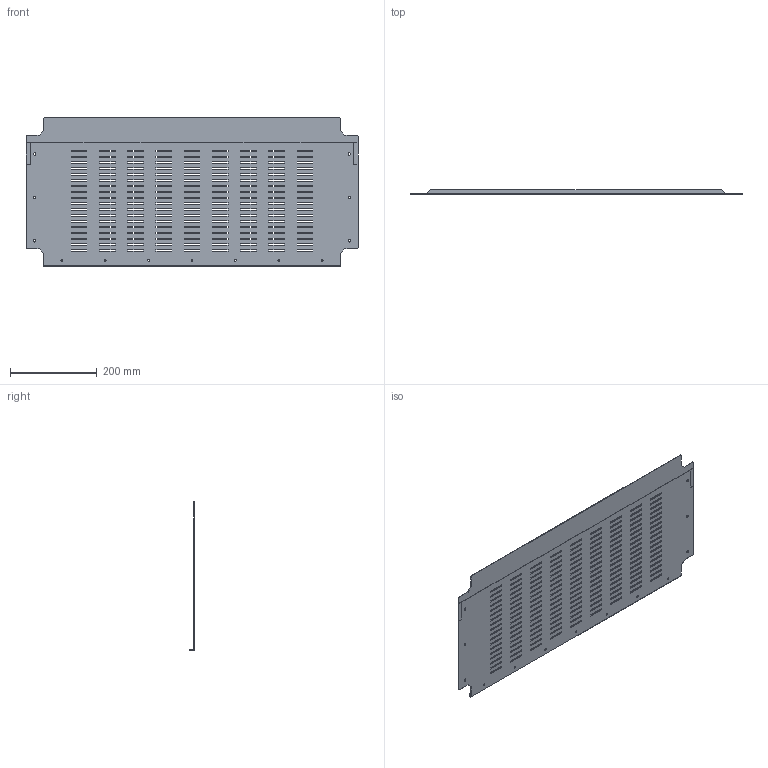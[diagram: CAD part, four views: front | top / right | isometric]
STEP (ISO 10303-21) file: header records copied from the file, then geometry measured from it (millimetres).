
FILE_DESCRIPTION(('CAx-IF Rec.Pracs.---Model Styling and Organization---1.2---2011-12-15','CAx-IF Rec.Pracs.---Geometric and Assembly Validation Properties---4.1---2014-06-16','CAx-IF Rec.Pracs.---PMI Polyline Presentation---2.0---2013-05-24'),'2;1');
FILE_NAME('R5SBB84.stp','2021-05-06T02:25:46+03:00',(''),(''),'STEP Interface 4.4 by CT CoreTechnologie','3D_Evolution4.4 by CT CoreTechnologie','');
FILE_SCHEMA(('AUTOMOTIVE_DESIGN { 1 0 10303 214 1 1 1 1 }'));
Length unit declared in the file: millimetre
Products named in the file (2): R5SBB84; RB.0731.00.00.0_-01
Assembly tree (1 placements, depth 2):
  R5SBB84
    RB.0731.00.00.0_-01
Bounding box: 765 x 11.5 x 342 mm (x, y, z)
Surface area: 506861.6 mm2 (no closed solid volume)
Topology: 0 solids, 1 shells, 802 faces, 2396 edges, 1596 vertices
Faces by surface type: plane 774, cylinder 28
Entity records: 27285 total; most frequent: CARTESIAN_POINT 4796, ORIENTED_EDGE 4792, DIRECTION 4060, EDGE_CURVE 2396, VECTOR 2340, LINE 2340, VERTEX_POINT 1596, EDGE_LOOP 1186
